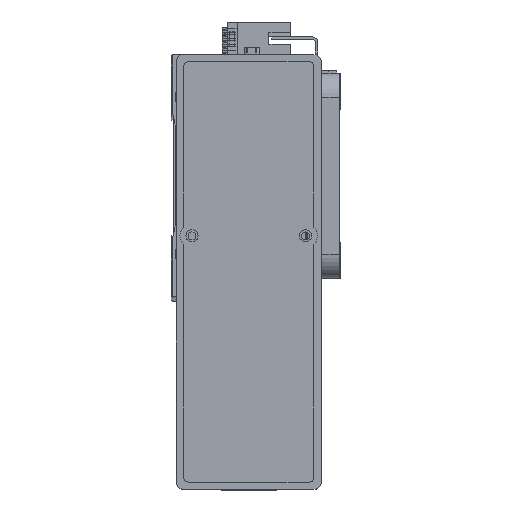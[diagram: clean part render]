
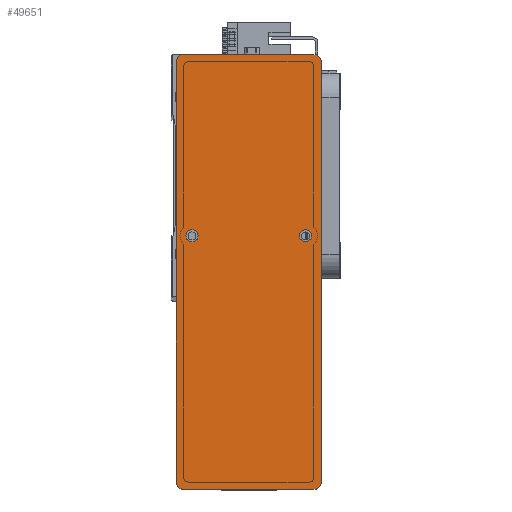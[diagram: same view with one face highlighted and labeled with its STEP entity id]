
A CAD part, top view. The second image highlights one B-rep face of the part: STEP entity #49651.
In plain terms, the highlighted planar face has unit normal (0, 0, 1) as drawn and (0, 0, -1) by its records, which use the part's own axes.
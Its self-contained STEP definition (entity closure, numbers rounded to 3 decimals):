
#751 = VERTEX_POINT ( 'NONE', #44776 ) ;
#908 = DIRECTION ( 'NONE',  ( 0., -1., 0. ) ) ;
#1428 = DIRECTION ( 'NONE',  ( 0., 0., -1. ) ) ;
#1467 = ORIENTED_EDGE ( 'NONE', *, *, #26203, .T. ) ;
#4123 = CARTESIAN_POINT ( 'NONE',  ( -15., -23.5, 0. ) ) ;
#4642 = VERTEX_POINT ( 'NONE', #21163 ) ;
#5063 = CARTESIAN_POINT ( 'NONE',  ( 87., 30., 0. ) ) ;
#5866 = CARTESIAN_POINT ( 'NONE',  ( -12.5, 23.5, 0. ) ) ;
#6101 = VERTEX_POINT ( 'NONE', #29453 ) ;
#6320 = VECTOR ( 'NONE', #15903, 1000. ) ;
#6627 = EDGE_LOOP ( 'NONE', ( #12540, #25076 ) ) ;
#7999 = ORIENTED_EDGE ( 'NONE', *, *, #40842, .F. ) ;
#8431 = CARTESIAN_POINT ( 'NONE',  ( 90., -30., 0. ) ) ;
#8805 = AXIS2_PLACEMENT_3D ( 'NONE', #4123, #38350, #9030 ) ;
#9030 = DIRECTION ( 'NONE',  ( -1., 0., 0. ) ) ;
#10287 = EDGE_CURVE ( 'NONE', #35930, #28023, #54275, .T. ) ;
#10605 = CARTESIAN_POINT ( 'NONE',  ( -17.5, -23.5, 0. ) ) ;
#10615 = LINE ( 'NONE', #8431, #22071 ) ;
#10739 = PLANE ( 'NONE',  #50265 ) ;
#11154 = CARTESIAN_POINT ( 'NONE',  ( -17.5, 23.5, 0. ) ) ;
#11477 = CARTESIAN_POINT ( 'NONE',  ( -15., 23.5, 0. ) ) ;
#12253 = EDGE_CURVE ( 'NONE', #46434, #51839, #56011, .T. ) ;
#12302 = DIRECTION ( 'NONE',  ( -1., 0., 0. ) ) ;
#12540 = ORIENTED_EDGE ( 'NONE', *, *, #42666, .F. ) ;
#12696 = AXIS2_PLACEMENT_3D ( 'NONE', #11477, #45666, #16420 ) ;
#13212 = FACE_OUTER_BOUND ( 'NONE', #31799, .T. ) ;
#14287 = VERTEX_POINT ( 'NONE', #37989 ) ;
#14849 = ORIENTED_EDGE ( 'NONE', *, *, #10287, .F. ) ;
#15863 = ORIENTED_EDGE ( 'NONE', *, *, #26493, .T. ) ;
#15903 = DIRECTION ( 'NONE',  ( 0., 1., 0. ) ) ;
#16272 = LINE ( 'NONE', #51357, #27730 ) ;
#16420 = DIRECTION ( 'NONE',  ( -1., 0., 0. ) ) ;
#17020 = VERTEX_POINT ( 'NONE', #10605 ) ;
#17195 = CARTESIAN_POINT ( 'NONE',  ( -15., 23.5, 0. ) ) ;
#18426 = DIRECTION ( 'NONE',  ( 0., 0., -1. ) ) ;
#18627 = ORIENTED_EDGE ( 'NONE', *, *, #27313, .F. ) ;
#19292 = VERTEX_POINT ( 'NONE', #5063 ) ;
#20160 = VERTEX_POINT ( 'NONE', #28694 ) ;
#20539 = DIRECTION ( 'NONE',  ( 0., 0., 1. ) ) ;
#20913 = LINE ( 'NONE', #54903, #6320 ) ;
#21163 = CARTESIAN_POINT ( 'NONE',  ( 87., -30., 0. ) ) ;
#21719 = EDGE_CURVE ( 'NONE', #751, #4642, #43855, .T. ) ;
#21774 = CARTESIAN_POINT ( 'NONE',  ( -90., -27., 0. ) ) ;
#21828 = EDGE_LOOP ( 'NONE', ( #58457, #7999 ) ) ;
#22071 = VECTOR ( 'NONE', #37734, 1000. ) ;
#22077 = DIRECTION ( 'NONE',  ( -1., 0., 0. ) ) ;
#23655 = AXIS2_PLACEMENT_3D ( 'NONE', #30718, #1428, #35641 ) ;
#24954 = AXIS2_PLACEMENT_3D ( 'NONE', #28325, #62485, #33210 ) ;
#25076 = ORIENTED_EDGE ( 'NONE', *, *, #52179, .F. ) ;
#25726 = CIRCLE ( 'NONE', #56968, 2.5 ) ;
#26158 = FACE_BOUND ( 'NONE', #6627, .T. ) ;
#26203 = EDGE_CURVE ( 'NONE', #19292, #6101, #57042, .T. ) ;
#26493 = EDGE_CURVE ( 'NONE', #35930, #63172, #57698, .T. ) ;
#27313 = EDGE_CURVE ( 'NONE', #751, #6101, #20913, .T. ) ;
#27470 = DIRECTION ( 'NONE',  ( 0., 0., -1. ) ) ;
#27730 = VECTOR ( 'NONE', #12302, 1000. ) ;
#28023 = VERTEX_POINT ( 'NONE', #21774 ) ;
#28325 = CARTESIAN_POINT ( 'NONE',  ( 87., -27., 0. ) ) ;
#28513 = DIRECTION ( 'NONE',  ( 0., 0., -1. ) ) ;
#28694 = CARTESIAN_POINT ( 'NONE',  ( -12.5, -23.5, 0. ) ) ;
#29453 = CARTESIAN_POINT ( 'NONE',  ( 90., 27., 0. ) ) ;
#30718 = CARTESIAN_POINT ( 'NONE',  ( -87., 27., 0. ) ) ;
#30791 = CIRCLE ( 'NONE', #58824, 3. ) ;
#31799 = EDGE_LOOP ( 'NONE', ( #18627, #49097, #51074, #55674, #14849, #15863, #60258, #1467 ) ) ;
#32613 = AXIS2_PLACEMENT_3D ( 'NONE', #47662, #18426, #52547 ) ;
#33210 = DIRECTION ( 'NONE',  ( 1., 0., 0. ) ) ;
#33223 = AXIS2_PLACEMENT_3D ( 'NONE', #17195, #51330, #22077 ) ;
#35641 = DIRECTION ( 'NONE',  ( 1., 0., 0. ) ) ;
#35930 = VERTEX_POINT ( 'NONE', #56791 ) ;
#36728 = CIRCLE ( 'NONE', #8805, 2.5 ) ;
#37734 = DIRECTION ( 'NONE',  ( 1., 0., 0. ) ) ;
#37989 = CARTESIAN_POINT ( 'NONE',  ( -87., -30., 0. ) ) ;
#38350 = DIRECTION ( 'NONE',  ( 0., 0., -1. ) ) ;
#40667 = CARTESIAN_POINT ( 'NONE',  ( -87., 30., 0. ) ) ;
#40842 = EDGE_CURVE ( 'NONE', #51839, #46434, #61420, .T. ) ;
#41325 = VECTOR ( 'NONE', #908, 1000. ) ;
#42666 = EDGE_CURVE ( 'NONE', #17020, #20160, #36728, .T. ) ;
#43855 = CIRCLE ( 'NONE', #24954, 3. ) ;
#44776 = CARTESIAN_POINT ( 'NONE',  ( 90., -27., 0. ) ) ;
#45666 = DIRECTION ( 'NONE',  ( 0., 0., -1. ) ) ;
#46434 = VERTEX_POINT ( 'NONE', #11154 ) ;
#47662 = CARTESIAN_POINT ( 'NONE',  ( 87., 27., 0. ) ) ;
#49097 = ORIENTED_EDGE ( 'NONE', *, *, #21719, .T. ) ;
#49651 = ADVANCED_FACE ( 'NONE', ( #50597, #26158, #13212 ), #10739, .F. ) ;
#49825 = CARTESIAN_POINT ( 'NONE',  ( 0., 0., 0. ) ) ;
#50265 = AXIS2_PLACEMENT_3D ( 'NONE', #49825, #20539, #54681 ) ;
#50597 = FACE_BOUND ( 'NONE', #21828, .T. ) ;
#51074 = ORIENTED_EDGE ( 'NONE', *, *, #61507, .F. ) ;
#51330 = DIRECTION ( 'NONE',  ( 0., 0., -1. ) ) ;
#51357 = CARTESIAN_POINT ( 'NONE',  ( 90., 30., 0. ) ) ;
#51839 = VERTEX_POINT ( 'NONE', #5866 ) ;
#52179 = EDGE_CURVE ( 'NONE', #20160, #17020, #25726, .T. ) ;
#52547 = DIRECTION ( 'NONE',  ( 1., 0., 0. ) ) ;
#53739 = EDGE_CURVE ( 'NONE', #19292, #63172, #16272, .T. ) ;
#54275 = LINE ( 'NONE', #59404, #41325 ) ;
#54681 = DIRECTION ( 'NONE',  ( 1., 0., 0. ) ) ;
#54903 = CARTESIAN_POINT ( 'NONE',  ( 90., -30., 0. ) ) ;
#55324 = EDGE_CURVE ( 'NONE', #14287, #28023, #30791, .T. ) ;
#55674 = ORIENTED_EDGE ( 'NONE', *, *, #55324, .T. ) ;
#56011 = CIRCLE ( 'NONE', #12696, 2.5 ) ;
#56684 = CARTESIAN_POINT ( 'NONE',  ( -87., -27., 0. ) ) ;
#56791 = CARTESIAN_POINT ( 'NONE',  ( -90., 27., 0. ) ) ;
#56968 = AXIS2_PLACEMENT_3D ( 'NONE', #57721, #28513, #62667 ) ;
#57042 = CIRCLE ( 'NONE', #32613, 3. ) ;
#57698 = CIRCLE ( 'NONE', #23655, 3. ) ;
#57721 = CARTESIAN_POINT ( 'NONE',  ( -15., -23.5, 0. ) ) ;
#58457 = ORIENTED_EDGE ( 'NONE', *, *, #12253, .F. ) ;
#58824 = AXIS2_PLACEMENT_3D ( 'NONE', #56684, #27470, #61630 ) ;
#59404 = CARTESIAN_POINT ( 'NONE',  ( -90., -30., 0. ) ) ;
#60258 = ORIENTED_EDGE ( 'NONE', *, *, #53739, .F. ) ;
#61420 = CIRCLE ( 'NONE', #33223, 2.5 ) ;
#61507 = EDGE_CURVE ( 'NONE', #14287, #4642, #10615, .T. ) ;
#61630 = DIRECTION ( 'NONE',  ( 1., 0., 0. ) ) ;
#62485 = DIRECTION ( 'NONE',  ( 0., 0., -1. ) ) ;
#62667 = DIRECTION ( 'NONE',  ( -1., 0., 0. ) ) ;
#63172 = VERTEX_POINT ( 'NONE', #40667 ) ;
